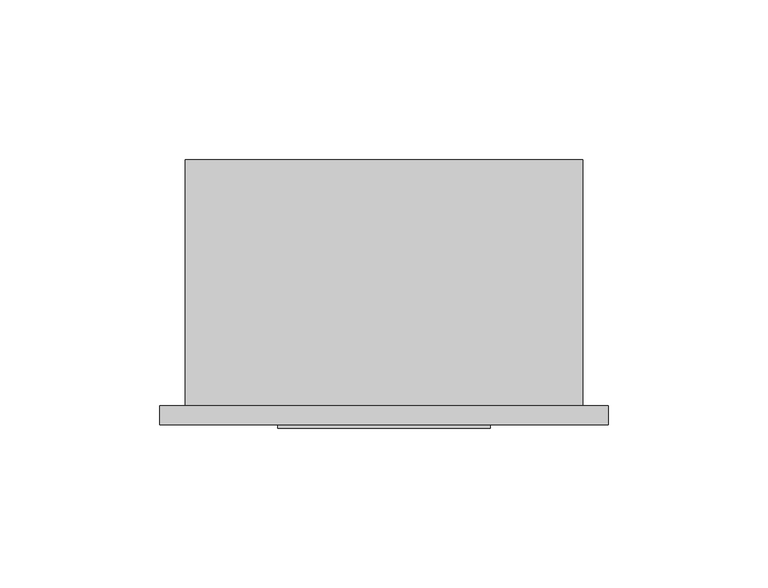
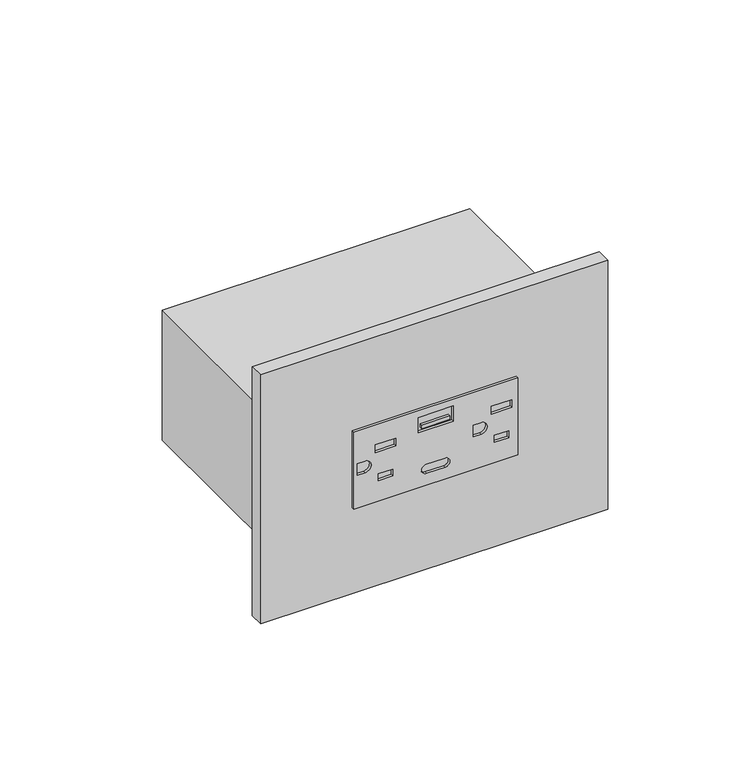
"""IFC4 building model written with IfcOpenShell, lengths in millimetres: proxy geometry, Electrical-Teknion-EPDHS_Horizontal_Power_Data_Single-R2019 : PD Horizontal Module - Single 15 Amp USB (A+C)."""

import ifcopenshell
import ifcopenshell.guid

model = None  # the IFC model being written
_history = None  # IfcOwnerHistory: only IFC2X3 demands one
_inside = {}  # id of a spatial element -> (the spatial element, [elements in it])
_under = {}  # id of a project, library or spatial element -> (it, [spatial elements below it])
_declared = {}  # id of a project -> (the project, [libraries it declares])
_typed = {}  # id of a type object -> (the type object, [elements of that type])
_made_of = {}  # id of a material, layer set ... -> (it, [elements and type objects made of it])


def new_model(schema):
    """Start an empty IFC model of exactly this schema.

    Asked for "IFC4X3", IfcOpenShell would pick the latest addendum, in which some entities
    have other attributes; the version numbers below select the first issue.
    IFC2X3 requires an IfcOwnerHistory on every rooted entity: one is made here for all.
    """
    global model, _history
    if schema == "IFC4X3":
        model = ifcopenshell.file(schema_version=(4, 3, 0, 0))
    else:
        model = ifcopenshell.file(schema=schema)
    _inside.clear()
    _under.clear()
    _declared.clear()
    _typed.clear()
    _made_of.clear()
    _history = None
    if model.schema == "IFC2X3":
        org = make("IfcOrganization", Name="unknown")
        user = make(
            "IfcPersonAndOrganization",
            ThePerson=make("IfcPerson", FamilyName="unknown"),
            TheOrganization=org,
        )
        app = make(
            "IfcApplication",
            ApplicationDeveloper=org,
            Version="unknown",
            ApplicationFullName="unknown",
            ApplicationIdentifier="unknown",
        )
        _history = make(
            "IfcOwnerHistory",
            OwningUser=user,
            OwningApplication=app,
            ChangeAction="ADDED",
            CreationDate=0,
        )
    return model


def make(cls, **values):
    """One entity of the class cls with the attributes given. An attribute that is None is left unset."""
    return model.create_entity(
        cls, **{name: value for name, value in values.items() if value is not None}
    )


def rooted(cls, **values):
    """An entity with a GlobalId (a new one), such as an element, a storey or a relation."""
    return make(cls, GlobalId=ifcopenshell.guid.new(), OwnerHistory=_history, **values)


def si_unit(unit_type, name, prefix=None):
    """IfcSIUnit, for example si_unit("LENGTHUNIT", "METRE", prefix="MILLI")."""
    return make("IfcSIUnit", UnitType=unit_type, Prefix=prefix, Name=name)


def assignment(units):
    """IfcUnitAssignment: the units of a project."""
    return None if units is None else make("IfcUnitAssignment", Units=units)


def point(xyz):
    """IfcCartesianPoint."""
    return None if xyz is None else make("IfcCartesianPoint", Coordinates=xyz)


def direction(xyz):
    """IfcDirection."""
    return None if xyz is None else make("IfcDirection", DirectionRatios=xyz)


def frame(location, z_axis=None, x_axis=None):
    """IfcAxis2Placement3D, a coordinate frame: its origin and axes. An axis left out is left unset."""
    return make(
        "IfcAxis2Placement3D",
        Location=point(location),
        Axis=direction(z_axis),
        RefDirection=direction(x_axis),
    )


def frame_2d(location, x_axis=None):
    """IfcAxis2Placement2D, a coordinate frame in the plane: its origin and x axis."""
    return make(
        "IfcAxis2Placement2D", Location=point(location), RefDirection=direction(x_axis)
    )


def origin():
    """The frame at (0, 0, 0) with its axes left unset."""
    return frame((0.0, 0.0, 0.0))


def place(relative_to, where):
    """IfcLocalPlacement: puts the frame where relative to a parent placement (None: the world)."""
    return make(
        "IfcLocalPlacement", PlacementRelTo=relative_to, RelativePlacement=where
    )


def context(
    kind, dimensions, precision=None, world=None, true_north=None, identifier=None
):
    """IfcGeometricRepresentationContext, for example the 3D "Model" context."""
    return make(
        "IfcGeometricRepresentationContext",
        ContextIdentifier=identifier,
        ContextType=kind,
        CoordinateSpaceDimension=dimensions,
        Precision=precision,
        WorldCoordinateSystem=world,
        TrueNorth=true_north,
    )


def project(units=None, contexts=None):
    """IfcProject with its units and contexts."""
    return rooted(
        "IfcProject",
        Name="project",
        RepresentationContexts=contexts,
        UnitsInContext=assignment(units),
    )


def spatial(cls, under=None, at=None, **own):
    """A site, building, storey or space (cls), placed at a placement, below another one or the project."""
    s = rooted(cls, ObjectPlacement=at, **own)
    if under is not None:
        _under.setdefault(under.id(), (under, []))[1].append(s)
    return s


def polyline(points):
    """IfcPolyline through the points."""
    return make("IfcPolyline", Points=[point(p) for p in points])


def circle_curve(where, radius):
    """IfcCircle in the frame where."""
    return make("IfcCircle", Position=where, Radius=radius)


def trimmed(basis, trim1, trim2, sense, master):
    """IfcTrimmedCurve: the piece of a basis curve between two trims."""
    return make(
        "IfcTrimmedCurve",
        BasisCurve=basis,
        Trim1=trim1,
        Trim2=trim2,
        SenseAgreement=sense,
        MasterRepresentation=master,
    )


def segment(curve, same_sense, transition):
    """IfcCompositeCurveSegment."""
    return make(
        "IfcCompositeCurveSegment",
        Transition=transition,
        SameSense=same_sense,
        ParentCurve=curve,
    )


def composite_curve(segments, self_intersect=None):
    """IfcCompositeCurve: segments joined end to end."""
    return make("IfcCompositeCurve", Segments=segments, SelfIntersect=self_intersect)


def outline(outer, holes=None, kind="AREA"):
    """IfcArbitraryClosedProfileDef: a profile drawn as a closed curve; with holes, ...WithVoids."""
    if holes is None:
        return make("IfcArbitraryClosedProfileDef", ProfileType=kind, OuterCurve=outer)
    return make(
        "IfcArbitraryProfileDefWithVoids",
        ProfileType=kind,
        OuterCurve=outer,
        InnerCurves=holes,
    )


def extrude(swept, where, along, depth):
    """IfcExtrudedAreaSolid: the profile swept, set in the frame where, extruded along a direction by depth."""
    return make(
        "IfcExtrudedAreaSolid",
        SweptArea=swept,
        Position=where,
        ExtrudedDirection=direction(along),
        Depth=depth,
    )


def shape(context_of_items, identifier, shape_type, items):
    """IfcShapeRepresentation: the items that make up one representation, for example the "Body"."""
    return make(
        "IfcShapeRepresentation",
        ContextOfItems=context_of_items,
        RepresentationIdentifier=identifier,
        RepresentationType=shape_type,
        Items=items,
    )


def source(mapping_origin, context_of_items, identifier, shape_type, items):
    """IfcRepresentationMap: a shape defined once, which mapped items show again and again."""
    return make(
        "IfcRepresentationMap",
        MappingOrigin=mapping_origin,
        MappedRepresentation=shape(context_of_items, identifier, shape_type, items),
    )


def transform(
    local_origin,
    x_axis=None,
    y_axis=None,
    z_axis=None,
    scale=None,
    scale2=None,
    scale3=None,
    uniform=True,
):
    """IfcCartesianTransformationOperator3D, or its non-uniform kind. x_axis, y_axis, z_axis: its Axis1, 2, 3."""
    if uniform:
        return make(
            "IfcCartesianTransformationOperator3D",
            Axis1=direction(x_axis),
            Axis2=direction(y_axis),
            LocalOrigin=point(local_origin),
            Scale=scale,
            Axis3=direction(z_axis),
        )
    return make(
        "IfcCartesianTransformationOperator3DnonUniform",
        Axis1=direction(x_axis),
        Axis2=direction(y_axis),
        LocalOrigin=point(local_origin),
        Scale=scale,
        Axis3=direction(z_axis),
        Scale2=scale2,
        Scale3=scale3,
    )


def mapped(mapping_source, mapping_target):
    """IfcMappedItem: shows the shape of a source again, moved by a transform."""
    return make(
        "IfcMappedItem", MappingSource=mapping_source, MappingTarget=mapping_target
    )


def made_of(thing, what):
    """Note that an element or type object is made of a material, layer set ...; save() writes the relation."""
    if what is not None:
        _made_of.setdefault(what.id(), (what, []))[1].append(thing)
    return thing


def element(
    cls,
    number,
    at=None,
    inside=None,
    cuts=None,
    type_object=None,
    material=None,
    context=None,
    identifier="Body",
    shape_type=None,
    held_by="IfcProductDefinitionShape",
    body=None,
    shapes=None,
    **own,
):
    """One element of the class cls, such as IfcWall. Its Tag is "e" and its number.

    at: its placement. inside: the storey or other place that contains it. cuts: it is an
    opening in that element (IfcRelVoidsElement). A single representation is given by context,
    identifier, shape_type and body (its items); several are given by shapes. held_by: the class
    of the entity that holds the representations. save() writes the other relations.
    """
    e = rooted(cls, Tag="e%d" % number, ObjectPlacement=at, **own)
    if body is not None:
        shapes = [shape(context, identifier, shape_type, body)]
    if shapes is not None:
        e.Representation = make(held_by, Representations=shapes)
    if inside is not None:
        _inside.setdefault(inside.id(), (inside, []))[1].append(e)
    if cuts is not None:
        rooted(
            "IfcRelVoidsElement", RelatingBuildingElement=cuts, RelatedOpeningElement=e
        )
    if type_object is not None:
        _typed.setdefault(type_object.id(), (type_object, []))[1].append(e)
    return made_of(e, material)


def aggregate(whole, parts):
    """IfcRelAggregates: a whole, such as a stair, and the parts it consists of."""
    return rooted("IfcRelAggregates", RelatingObject=whole, RelatedObjects=parts)


def save(model, path):
    """Write the relations noted so far, then the file.

    IfcRelAggregates (storeys below a building ...), IfcRelContainedInSpatialStructure (elements
    in a storey), IfcRelDefinesByType, IfcRelAssociatesMaterial and IfcRelDeclares: one each for
    every whole, place, type object, material and project.
    """
    for whole, parts in _under.values():
        aggregate(whole, parts)
    for where, things in _inside.values():
        rooted(
            "IfcRelContainedInSpatialStructure",
            RelatedElements=things,
            RelatingStructure=where,
        )
    for kind, things in _typed.values():
        rooted("IfcRelDefinesByType", RelatedObjects=things, RelatingType=kind)
    for what, things in _made_of.values():
        rooted("IfcRelAssociatesMaterial", RelatedObjects=things, RelatingMaterial=what)
    for by, libraries in _declared.values():
        rooted("IfcRelDeclares", RelatingContext=by, RelatedDefinitions=libraries)
    model.write(path)


def electrical_fixtures_2c1a8ef8(model_context):
    return source(origin(), model_context, "Body", "SweptSolid", [
        extrude(outline(polyline([(821.7027, 95.5294), (854.6973, 95.5294), (854.6973, 28.9814), (821.7027, 28.9814), (821.7027, 95.5294)]), holes=[polyline([(842.8355, 93.0823163), (842.8355, 84.7665661), (846.1629, 84.7665661), (846.1629, 93.0823163), (842.8355, 93.0823163)]), polyline([(830.38696, 91.8360175), (830.38696, 86.0128649), (833.3613, 86.0128649), (833.3613, 91.8360175), (830.38696, 91.8360175)]), composite_curve([segment(polyline([(835.7362, 77.4954), (840.6638, 77.4954), (840.6638, 80.5942)]), True, "CONTINUOUS"), segment(trimmed(circle_curve(frame_2d((838.2, 80.5942)), 2.4638), [point((840.6638, 80.5942))], [point((835.7362, 80.5942))], True, "CARTESIAN"), True, "CONTINUOUS"), segment(polyline([(835.7362, 80.5942), (835.7362, 77.4954)]), True, "CONTINUOUS")], self_intersect=False), polyline([(842.8355, 46.0923163), (842.8355, 37.7765661), (846.1629, 37.7765661), (846.1629, 46.0923163), (842.8355, 46.0923163)]), polyline([(830.38696, 44.8460175), (830.38696, 39.0228649), (833.3613, 39.0228649), (833.3613, 44.8460175), (830.38696, 44.8460175)]), composite_curve([segment(polyline([(835.7362, 30.5054), (840.6638, 30.5054), (840.6638, 33.6042)]), True, "CONTINUOUS"), segment(trimmed(circle_curve(frame_2d((838.2, 33.6042)), 2.4638), [point((840.6638, 33.6042))], [point((835.7362, 33.6042))], True, "CARTESIAN"), True, "CONTINUOUS"), segment(polyline([(835.7362, 33.6042), (835.7362, 30.5054)]), True, "CONTINUOUS")], self_intersect=False), polyline([(845.2710934, 69.3039), (845.2710934, 55.2069), (851.7734934, 55.2069), (851.7734934, 69.3039), (845.2710934, 69.3039)]), composite_curve([segment(trimmed(circle_curve(frame_2d((828.6623, 58.4708)), 1.905), [point((826.7573, 58.4708))], [point((830.5673, 58.4708))], True, "CARTESIAN"), True, "CONTINUOUS"), segment(polyline([(830.5673, 58.4708), (830.5673, 66.04)]), True, "CONTINUOUS"), segment(trimmed(circle_curve(frame_2d((828.6623, 66.04)), 1.905), [point((830.5673, 66.04))], [point((826.7573, 66.04))], True, "CARTESIAN"), True, "CONTINUOUS"), segment(polyline([(826.7573, 66.04), (826.7573, 58.4708)]), True, "CONTINUOUS")], self_intersect=False)]), frame((0.0, -6.9294746, 0.0), z_axis=(0.0, 1.0, 0.0), x_axis=(0.0, 0.0, 1.0)), (0.0, 0.0, 1.0), 1.0366746),
        extrude(outline(polyline([(67.9731897, -6.9294746), (56.5295546, -6.9294746), (56.5295546, -5.8928), (67.9731897, -5.8928), (67.9731897, -6.9294746)])), frame((0.0, 0.0, 846.482265), z_axis=(0.0, 0.0, 1.0), x_axis=(1.0, 0.0, 0.0)), (0.0, 0.0, 1.0), 1.5209293),
        extrude(outline(polyline([(-7.9502, 0.0), (132.4102, 0.0), (132.4102, -5.8928), (-7.9502, -5.8928), (-7.9502, 0.0)])), frame((0.0, 0.0, 784.9108), z_axis=(0.0, 0.0, 1.0), x_axis=(1.0, 0.0, 0.0)), (0.0, 0.0, 1.0), 106.5784),
        extrude(outline(polyline([(124.46, 0.0), (0.0, 0.0), (0.0, 77.054), (124.46, 77.054), (124.46, 0.0)])), frame((0.0, 0.0, 810.4124), z_axis=(0.0, 0.0, 1.0), x_axis=(1.0, 0.0, 0.0)), (0.0, 0.0, 1.0), 55.5752),
    ])


if __name__ == "__main__":
    model = new_model("IFC4")
    model_context = context("Model", 3, world=origin())
    ifc_project = project(units=[si_unit("LENGTHUNIT", "METRE", prefix="MILLI")], contexts=[model_context])
    site = spatial("IfcSite", under=ifc_project)
    building = spatial("IfcBuilding", under=site)
    placement = place(None, origin())
    electrical_fixtures_shape = electrical_fixtures_2c1a8ef8(model_context)
    element("IfcBuildingElementProxy", 1, Name="Electrical-Teknion-EPDHS_Horizontal_Power_Data_Single-R2019 : PD Horizontal Module - Single 15 Amp USB (A+C)", ObjectType="Electrical-Teknion-EPDHS_Horizontal_Power_Data_Single-R2019 : PD Horizontal Module - Single 15 Amp USB (A+C)", at=placement, inside=building, context=model_context, shape_type="MappedRepresentation", body=[
        mapped(electrical_fixtures_shape, transform((0.0, 0.0, 0.0), x_axis=(1.0, 0.0, 0.0), y_axis=(0.0, 1.0, 0.0), z_axis=(0.0, 0.0, 1.0))),
    ])
    save(model, "model.ifc")
